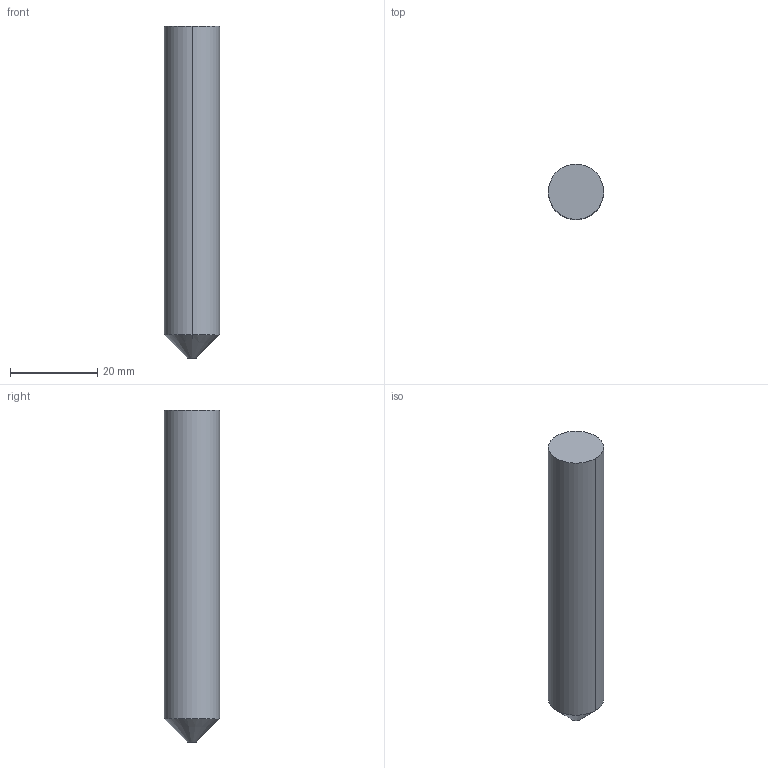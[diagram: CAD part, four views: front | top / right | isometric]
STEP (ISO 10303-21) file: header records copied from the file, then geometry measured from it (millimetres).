
FILE_DESCRIPTION((' '),'2;1');
FILE_NAME( '3HC050003.stp', '2026-01-21T09:08:32', (' '), ('--- Datakit www.datakit.com---'), ' Datakit CrossCadWare V2025.4 Sep 19 2025', 'Mastercam 2027', ' ');
FILE_SCHEMA(('AUTOMOTIVE_DESIGN { 1 0 10303 214 1 1 1 1 }'));
Length unit declared in the file: inch
Products named in the file (1): 3HC050003
Bounding box: 12.7 x 12.7 x 76.2 mm (x, y, z)
Volume: 9244.1 mm3; surface area: 3131.9 mm2
Topology: 1 solids, 1 shells, 6 faces, 10 edges, 6 vertices
Faces by surface type: plane 2, cone 2, cylinder 2
Entity records: 212 total; most frequent: DIRECTION 38, CARTESIAN_POINT 27, ORIENTED_EDGE 20, AXIS2_PLACEMENT_3D 17, EDGE_CURVE 10, VERTEX_POINT 6, CIRCLE 6, EDGE_LOOP 6
